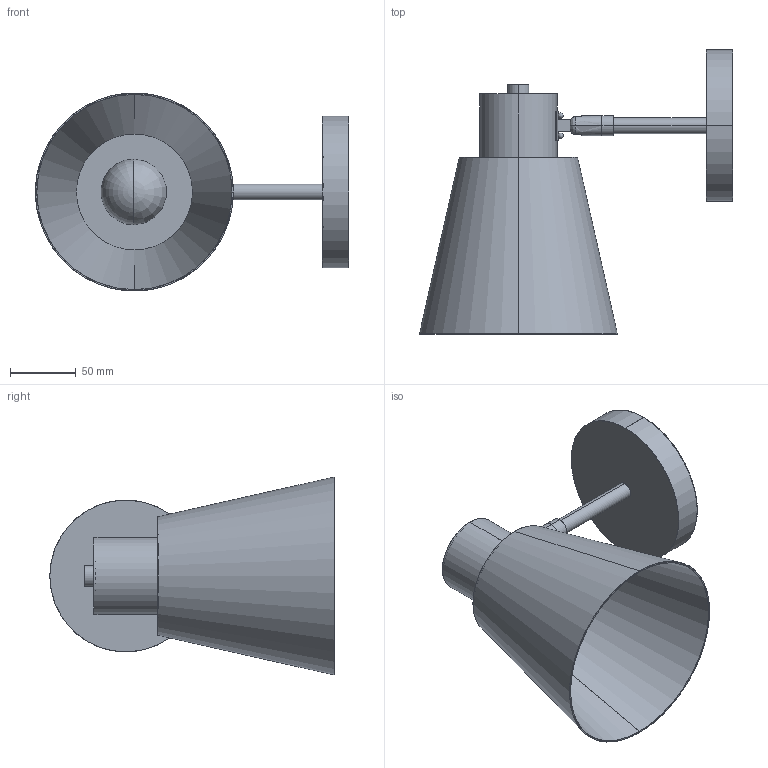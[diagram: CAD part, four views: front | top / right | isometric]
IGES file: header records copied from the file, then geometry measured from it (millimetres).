
Start section: SolidWorks IGES file using analytic representation for surfaces
Global section: file name: F:\燠隴矨\3D\2026-1\Adjustable Armed Wall Lamp.IGS,15; native system: HSolidWorks 2022; preprocessor: SolidWorks 2022; author: MyPC; date: 260104.143938; units: millimetre
Bounding box: 237.25 x 215.39 x 150 mm (x, y, z)
Surface area: 197410.5 mm2 (no closed solid volume)
Topology: 0 solids, 0 shells, 144 faces, 1944 edges, 1935 vertices
Faces by surface type: revolution 78, bspline 66
